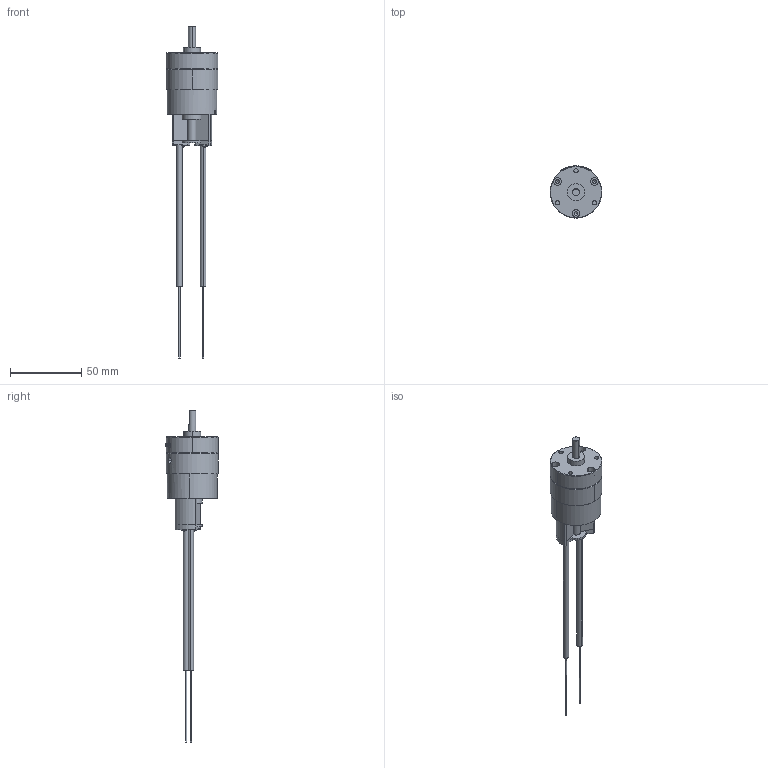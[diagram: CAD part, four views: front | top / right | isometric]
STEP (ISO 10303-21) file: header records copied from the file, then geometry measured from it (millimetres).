
FILE_DESCRIPTION (( 'STEP AP203' ), '1' );
FILE_NAME ('PROA3S-#-#-#-FR.STEP', '2016-02-04T06:56:51', ( 'Sam Lin' ), ( '' ), 'SwSTEP 2.0', 'SolidWorks 2013', '' );
FILE_SCHEMA (( 'CONFIG_CONTROL_DESIGN' ));
Length unit declared in the file: metre
Products named in the file (15): PROA3S-#-#-#-FR (6); PROA3S-#-# (2); PROA3S-#-#-#-FR (7); PROA3S-#-# (3); mark-PROA3S-2; PROA3S-#-# (6); PROA3S-#-#-#-FR; PROA3S-#-#-#-FR (1); PROA3S-#-#-#-FR (2); PROA3S-#-#-#-FR (3); PROA3S-#-# (4); PROA3S-#-#-#-FR (4); PROA3S-#-# (5); PROA3S-#-#-#-FR (5); PROA3S-#-# (1)
Assembly tree (16 placements, depth 2):
  PROA3S-#-#-#-FR
    PROA3S-#-# (4)
    PROA3S-#-# (5)
    PROA3S-#-# (1)
    PROA3S-#-# (2)
    PROA3S-#-# (3)
    PROA3S-#-# (6)
    PROA3S-#-#-#-FR (1)
    PROA3S-#-#-#-FR (2)
    PROA3S-#-#-#-FR (3)
    PROA3S-#-#-#-FR (4)  x2
    PROA3S-#-#-#-FR (5)  x2
    PROA3S-#-#-#-FR (6)
    PROA3S-#-#-#-FR (7)
    mark-PROA3S-2
Bounding box: 36.5 x 36.8 x 233.7 mm (x, y, z)
Volume: 40378.1 mm3; surface area: 23652.5 mm2
Topology: 22 solids, 22 shells, 499 faces, 1217 edges, 799 vertices
Faces by surface type: cylinder 229, plane 212, bspline 39, cone 19
Entity records: 18822 total; most frequent: CARTESIAN_POINT 5777, DIRECTION 2456, ORIENTED_EDGE 2310, EDGE_CURVE 1155, AXIS2_PLACEMENT_3D 947, VERTEX_POINT 765, VECTOR 562, LINE 562
